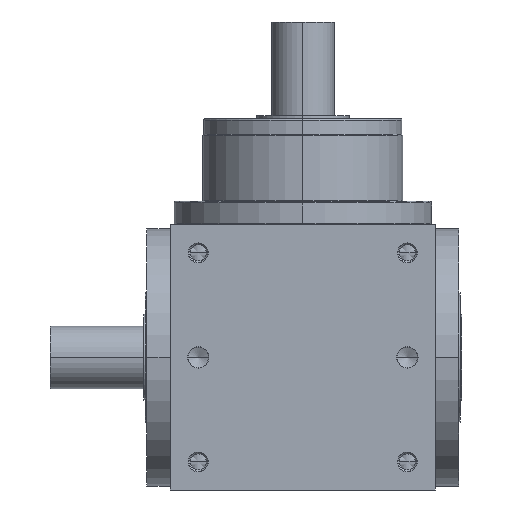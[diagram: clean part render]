
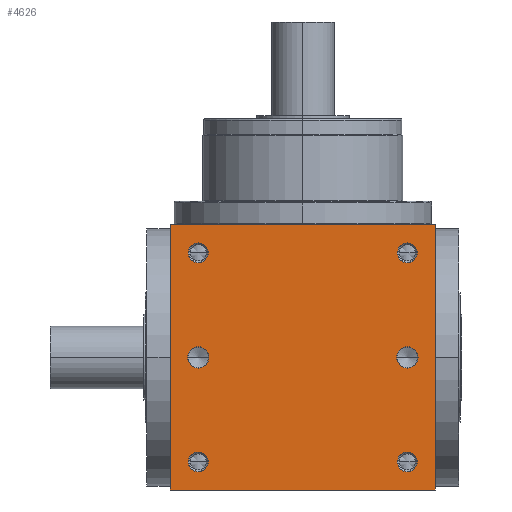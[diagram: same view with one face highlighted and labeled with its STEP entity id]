
A CAD part, front view. The second image highlights one B-rep face of the part: STEP entity #4626.
In plain terms, the highlighted planar face has unit normal (0, -1, 0).
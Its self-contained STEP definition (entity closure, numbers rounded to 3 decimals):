
#5=DIRECTION('',(1.,0.,0.));
#6=VECTOR('',#5,170.);
#7=CARTESIAN_POINT('',(-85.,-85.,-85.));
#8=LINE('',#7,#6);
#155=DIRECTION('',(0.,0.,1.));
#156=VECTOR('',#155,170.);
#157=CARTESIAN_POINT('',(85.,-85.,-85.));
#158=LINE('',#157,#156);
#209=DIRECTION('',(0.,0.,1.));
#210=VECTOR('',#209,170.);
#211=CARTESIAN_POINT('',(-85.,-85.,-85.));
#212=LINE('',#211,#210);
#213=CARTESIAN_POINT('',(67.,-85.,67.));
#214=DIRECTION('',(0.,1.,0.));
#215=DIRECTION('',(-1.,0.,0.));
#216=AXIS2_PLACEMENT_3D('',#213,#214,#215);
#218=CARTESIAN_POINT('',(67.,-85.,67.));
#219=DIRECTION('',(0.,1.,0.));
#220=DIRECTION('',(1.,0.,0.));
#221=AXIS2_PLACEMENT_3D('',#218,#219,#220);
#223=CARTESIAN_POINT('',(-67.,-85.,67.));
#224=DIRECTION('',(0.,1.,0.));
#225=DIRECTION('',(-1.,0.,0.));
#226=AXIS2_PLACEMENT_3D('',#223,#224,#225);
#228=CARTESIAN_POINT('',(-67.,-85.,67.));
#229=DIRECTION('',(0.,1.,0.));
#230=DIRECTION('',(1.,0.,0.));
#231=AXIS2_PLACEMENT_3D('',#228,#229,#230);
#233=CARTESIAN_POINT('',(67.,-85.,-67.));
#234=DIRECTION('',(0.,1.,0.));
#235=DIRECTION('',(-1.,0.,0.));
#236=AXIS2_PLACEMENT_3D('',#233,#234,#235);
#238=CARTESIAN_POINT('',(67.,-85.,-67.));
#239=DIRECTION('',(0.,1.,0.));
#240=DIRECTION('',(1.,0.,0.));
#241=AXIS2_PLACEMENT_3D('',#238,#239,#240);
#243=CARTESIAN_POINT('',(-67.,-85.,-67.));
#244=DIRECTION('',(0.,1.,0.));
#245=DIRECTION('',(-1.,0.,0.));
#246=AXIS2_PLACEMENT_3D('',#243,#244,#245);
#248=CARTESIAN_POINT('',(-67.,-85.,-67.));
#249=DIRECTION('',(0.,1.,0.));
#250=DIRECTION('',(1.,0.,0.));
#251=AXIS2_PLACEMENT_3D('',#248,#249,#250);
#253=CARTESIAN_POINT('',(-67.,-85.,0.));
#254=DIRECTION('',(0.,1.,0.));
#255=DIRECTION('',(1.,0.,0.));
#256=AXIS2_PLACEMENT_3D('',#253,#254,#255);
#258=CARTESIAN_POINT('',(-67.,-85.,0.));
#259=DIRECTION('',(0.,1.,0.));
#260=DIRECTION('',(-1.,0.,0.));
#261=AXIS2_PLACEMENT_3D('',#258,#259,#260);
#263=CARTESIAN_POINT('',(67.,-85.,0.));
#264=DIRECTION('',(0.,1.,0.));
#265=DIRECTION('',(1.,0.,0.));
#266=AXIS2_PLACEMENT_3D('',#263,#264,#265);
#268=CARTESIAN_POINT('',(67.,-85.,0.));
#269=DIRECTION('',(0.,1.,0.));
#270=DIRECTION('',(-1.,0.,0.));
#271=AXIS2_PLACEMENT_3D('',#268,#269,#270);
#285=DIRECTION('',(1.,0.,0.));
#286=VECTOR('',#285,170.);
#287=CARTESIAN_POINT('',(-85.,-85.,85.));
#288=LINE('',#287,#286);
#3710=CARTESIAN_POINT('',(-85.,-85.,-85.));
#3712=VERTEX_POINT('',#3710);
#3713=CARTESIAN_POINT('',(85.,-85.,-85.));
#3714=VERTEX_POINT('',#3713);
#3718=CARTESIAN_POINT('',(-85.,-85.,85.));
#3720=VERTEX_POINT('',#3718);
#3721=CARTESIAN_POINT('',(85.,-85.,85.));
#3722=VERTEX_POINT('',#3721);
#3889=CARTESIAN_POINT('',(60.65,-85.,67.));
#3890=CARTESIAN_POINT('',(73.35,-85.,67.));
#3891=VERTEX_POINT('',#3889);
#3892=VERTEX_POINT('',#3890);
#3897=CARTESIAN_POINT('',(-73.35,-85.,67.));
#3898=CARTESIAN_POINT('',(-60.65,-85.,67.));
#3899=VERTEX_POINT('',#3897);
#3900=VERTEX_POINT('',#3898);
#3905=CARTESIAN_POINT('',(60.65,-85.,-67.));
#3906=CARTESIAN_POINT('',(73.35,-85.,-67.));
#3907=VERTEX_POINT('',#3905);
#3908=VERTEX_POINT('',#3906);
#3913=CARTESIAN_POINT('',(-73.35,-85.,-67.));
#3914=CARTESIAN_POINT('',(-60.65,-85.,-67.));
#3915=VERTEX_POINT('',#3913);
#3916=VERTEX_POINT('',#3914);
#4255=CARTESIAN_POINT('',(-60.15,-85.,0.));
#4256=CARTESIAN_POINT('',(-73.85,-85.,
0.));
#4257=VERTEX_POINT('',#4255);
#4258=VERTEX_POINT('',#4256);
#4263=CARTESIAN_POINT('',(73.85,-85.,0.));
#4264=CARTESIAN_POINT('',(60.15,-85.,0.));
#4265=VERTEX_POINT('',#4263);
#4266=VERTEX_POINT('',#4264);
#4578=CARTESIAN_POINT('',(-85.,-85.,-85.));
#4579=DIRECTION('',(0.,-1.,0.));
#4580=DIRECTION('',(1.,0.,0.));
#4581=AXIS2_PLACEMENT_3D('',#4578,#4579,#4580);
#4582=PLANE('',#4581);
#4583=ORIENTED_EDGE('',*,*,#4418,.F.);
#4584=ORIENTED_EDGE('',*,*,#4461,.T.);
#4586=ORIENTED_EDGE('',*,*,#4585,.T.);
#4587=ORIENTED_EDGE('',*,*,#4540,.F.);
#4588=EDGE_LOOP('',(#4583,#4584,#4586,#4587));
#4589=FACE_OUTER_BOUND('',#4588,.F.);
#4591=ORIENTED_EDGE('',*,*,#4590,.F.);
#4593=ORIENTED_EDGE('',*,*,#4592,.F.);
#4594=EDGE_LOOP('',(#4591,#4593));
#4595=FACE_BOUND('',#4594,.F.);
#4597=ORIENTED_EDGE('',*,*,#4596,.F.);
#4599=ORIENTED_EDGE('',*,*,#4598,.F.);
#4600=EDGE_LOOP('',(#4597,#4599));
#4601=FACE_BOUND('',#4600,.F.);
#4603=ORIENTED_EDGE('',*,*,#4602,.F.);
#4605=ORIENTED_EDGE('',*,*,#4604,.F.);
#4606=EDGE_LOOP('',(#4603,#4605));
#4607=FACE_BOUND('',#4606,.F.);
#4609=ORIENTED_EDGE('',*,*,#4608,.F.);
#4611=ORIENTED_EDGE('',*,*,#4610,.F.);
#4612=EDGE_LOOP('',(#4609,#4611));
#4613=FACE_BOUND('',#4612,.F.);
#4615=ORIENTED_EDGE('',*,*,#4614,.F.);
#4617=ORIENTED_EDGE('',*,*,#4616,.F.);
#4618=EDGE_LOOP('',(#4615,#4617));
#4619=FACE_BOUND('',#4618,.F.);
#4621=ORIENTED_EDGE('',*,*,#4620,.F.);
#4623=ORIENTED_EDGE('',*,*,#4622,.F.);
#4624=EDGE_LOOP('',(#4621,#4623));
#4625=FACE_BOUND('',#4624,.F.);
#4626=ADVANCED_FACE('',(#4589,#4595,#4601,#4607,#4613,#4619,#4625),#4582,.T.);
#217=CIRCLE('',#216,6.35);
#222=CIRCLE('',#221,6.35);
#227=CIRCLE('',#226,6.35);
#232=CIRCLE('',#231,6.35);
#237=CIRCLE('',#236,6.35);
#242=CIRCLE('',#241,6.35);
#247=CIRCLE('',#246,6.35);
#252=CIRCLE('',#251,6.35);
#257=CIRCLE('',#256,6.85);
#262=CIRCLE('',#261,6.85);
#267=CIRCLE('',#266,6.85);
#272=CIRCLE('',#271,6.85);
#4418=EDGE_CURVE('',#3712,#3714,#8,.T.);
#4461=EDGE_CURVE('',#3712,#3720,#212,.T.);
#4540=EDGE_CURVE('',#3714,#3722,#158,.T.);
#4585=EDGE_CURVE('',#3720,#3722,#288,.T.);
#4590=EDGE_CURVE('',#3891,#3892,#217,.T.);
#4592=EDGE_CURVE('',#3892,#3891,#222,.T.);
#4596=EDGE_CURVE('',#3899,#3900,#227,.T.);
#4598=EDGE_CURVE('',#3900,#3899,#232,.T.);
#4602=EDGE_CURVE('',#3907,#3908,#237,.T.);
#4604=EDGE_CURVE('',#3908,#3907,#242,.T.);
#4608=EDGE_CURVE('',#3915,#3916,#247,.T.);
#4610=EDGE_CURVE('',#3916,#3915,#252,.T.);
#4614=EDGE_CURVE('',#4257,#4258,#257,.T.);
#4616=EDGE_CURVE('',#4258,#4257,#262,.T.);
#4620=EDGE_CURVE('',#4265,#4266,#267,.T.);
#4622=EDGE_CURVE('',#4266,#4265,#272,.T.);
